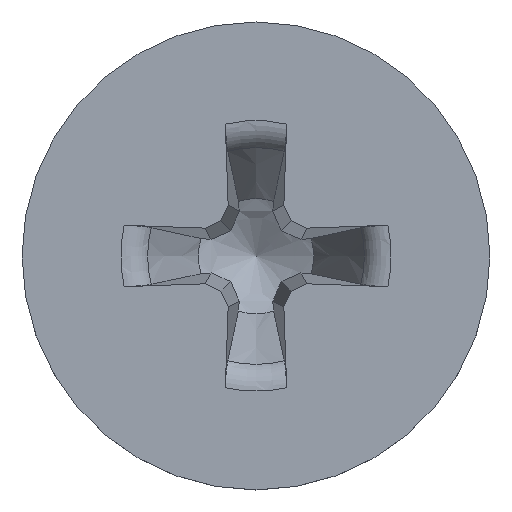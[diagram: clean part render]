
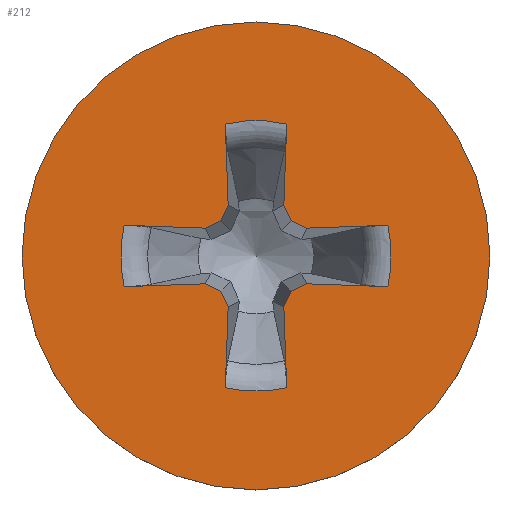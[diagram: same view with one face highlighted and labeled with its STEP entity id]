
A CAD part, top view. The second image highlights one B-rep face of the part: STEP entity #212.
In plain terms, the highlighted planar face has unit normal (0, 0, 1).
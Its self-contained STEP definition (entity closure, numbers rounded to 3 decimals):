
#61=PLANE('',#1049);
#79=LINE('',#2136,#130);
#80=LINE('',#2141,#131);
#81=LINE('',#2143,#132);
#82=LINE('',#2145,#133);
#83=LINE('',#2147,#134);
#84=LINE('',#2151,#135);
#85=LINE('',#2153,#136);
#86=LINE('',#2155,#137);
#87=LINE('',#2157,#138);
#88=LINE('',#2161,#139);
#89=LINE('',#2163,#140);
#90=LINE('',#2165,#141);
#91=LINE('',#2167,#142);
#92=LINE('',#2171,#143);
#93=LINE('',#2173,#144);
#94=LINE('',#2175,#145);
#130=VECTOR('',#1111,1.);
#131=VECTOR('',#1114,1.);
#132=VECTOR('',#1115,1.);
#133=VECTOR('',#1116,1.);
#134=VECTOR('',#1117,1.);
#135=VECTOR('',#1120,1.);
#136=VECTOR('',#1121,1.);
#137=VECTOR('',#1122,1.);
#138=VECTOR('',#1123,1.);
#139=VECTOR('',#1126,1.);
#140=VECTOR('',#1127,1.);
#141=VECTOR('',#1128,1.);
#142=VECTOR('',#1129,1.);
#143=VECTOR('',#1132,1.);
#144=VECTOR('',#1133,1.);
#145=VECTOR('',#1134,1.);
#189=FACE_BOUND('',#331,.T.);
#190=FACE_BOUND('',#332,.T.);
#212=ADVANCED_FACE('',(#189,#190),#61,.F.);
#331=EDGE_LOOP('',(#443));
#332=EDGE_LOOP('',(#444,#445,#446,#447,#448,#449,#450,#451,#452,#453,#454,
#455,#456,#457,#458,#459,#460,#461,#462,#463));
#398=CIRCLE('',#1044,4.65);
#399=CIRCLE('',#1045,2.69);
#400=CIRCLE('',#1046,2.69);
#401=CIRCLE('',#1047,2.69);
#402=CIRCLE('',#1048,2.69);
#443=ORIENTED_EDGE('',*,*,#836,.T.);
#444=ORIENTED_EDGE('',*,*,#837,.F.);
#445=ORIENTED_EDGE('',*,*,#838,.T.);
#446=ORIENTED_EDGE('',*,*,#839,.F.);
#447=ORIENTED_EDGE('',*,*,#840,.F.);
#448=ORIENTED_EDGE('',*,*,#841,.F.);
#449=ORIENTED_EDGE('',*,*,#842,.F.);
#450=ORIENTED_EDGE('',*,*,#843,.T.);
#451=ORIENTED_EDGE('',*,*,#844,.F.);
#452=ORIENTED_EDGE('',*,*,#845,.F.);
#453=ORIENTED_EDGE('',*,*,#846,.F.);
#454=ORIENTED_EDGE('',*,*,#847,.F.);
#455=ORIENTED_EDGE('',*,*,#848,.T.);
#456=ORIENTED_EDGE('',*,*,#849,.F.);
#457=ORIENTED_EDGE('',*,*,#850,.F.);
#458=ORIENTED_EDGE('',*,*,#851,.F.);
#459=ORIENTED_EDGE('',*,*,#852,.F.);
#460=ORIENTED_EDGE('',*,*,#853,.T.);
#461=ORIENTED_EDGE('',*,*,#854,.F.);
#462=ORIENTED_EDGE('',*,*,#855,.F.);
#463=ORIENTED_EDGE('',*,*,#856,.F.);
#737=VERTEX_POINT('',#2135);
#738=VERTEX_POINT('',#2137);
#739=VERTEX_POINT('',#2138);
#740=VERTEX_POINT('',#2140);
#741=VERTEX_POINT('',#2142);
#742=VERTEX_POINT('',#2144);
#743=VERTEX_POINT('',#2146);
#744=VERTEX_POINT('',#2148);
#745=VERTEX_POINT('',#2150);
#746=VERTEX_POINT('',#2152);
#747=VERTEX_POINT('',#2154);
#748=VERTEX_POINT('',#2156);
#749=VERTEX_POINT('',#2158);
#750=VERTEX_POINT('',#2160);
#751=VERTEX_POINT('',#2162);
#752=VERTEX_POINT('',#2164);
#753=VERTEX_POINT('',#2166);
#754=VERTEX_POINT('',#2168);
#755=VERTEX_POINT('',#2170);
#756=VERTEX_POINT('',#2172);
#757=VERTEX_POINT('',#2174);
#836=EDGE_CURVE('',#737,#737,#398,.T.);
#837=EDGE_CURVE('',#738,#739,#79,.T.);
#838=EDGE_CURVE('',#738,#740,#399,.T.);
#839=EDGE_CURVE('',#741,#740,#80,.T.);
#840=EDGE_CURVE('',#742,#741,#81,.T.);
#841=EDGE_CURVE('',#743,#742,#82,.T.);
#842=EDGE_CURVE('',#744,#743,#83,.T.);
#843=EDGE_CURVE('',#744,#745,#400,.T.);
#844=EDGE_CURVE('',#746,#745,#84,.T.);
#845=EDGE_CURVE('',#747,#746,#85,.T.);
#846=EDGE_CURVE('',#748,#747,#86,.T.);
#847=EDGE_CURVE('',#749,#748,#87,.T.);
#848=EDGE_CURVE('',#749,#750,#401,.T.);
#849=EDGE_CURVE('',#751,#750,#88,.T.);
#850=EDGE_CURVE('',#752,#751,#89,.T.);
#851=EDGE_CURVE('',#753,#752,#90,.T.);
#852=EDGE_CURVE('',#754,#753,#91,.T.);
#853=EDGE_CURVE('',#754,#755,#402,.T.);
#854=EDGE_CURVE('',#756,#755,#92,.T.);
#855=EDGE_CURVE('',#757,#756,#93,.T.);
#856=EDGE_CURVE('',#739,#757,#94,.T.);
#1044=AXIS2_PLACEMENT_3D('',#2134,#1109,#1110);
#1045=AXIS2_PLACEMENT_3D('',#2139,#1112,#1113);
#1046=AXIS2_PLACEMENT_3D('',#2149,#1118,#1119);
#1047=AXIS2_PLACEMENT_3D('',#2159,#1124,#1125);
#1048=AXIS2_PLACEMENT_3D('',#2169,#1130,#1131);
#1049=AXIS2_PLACEMENT_3D('',#2176,#1135,#1136);
#1109=DIRECTION('',(0.,0.,1.));
#1110=DIRECTION('',(1.,0.,0.));
#1111=DIRECTION('',(-0.999,-0.035,0.));
#1112=DIRECTION('',(0.,0.,-1.));
#1113=DIRECTION('',(-1.,0.,0.));
#1114=DIRECTION('',(0.999,-0.035,0.));
#1115=DIRECTION('',(0.906,0.423,0.));
#1116=DIRECTION('',(0.423,0.906,0.));
#1117=DIRECTION('',(-0.035,0.999,0.));
#1118=DIRECTION('',(0.,0.,-1.));
#1119=DIRECTION('',(-1.,0.,0.));
#1120=DIRECTION('',(-0.035,-0.999,0.));
#1121=DIRECTION('',(0.423,-0.906,0.));
#1122=DIRECTION('',(0.906,-0.423,0.));
#1123=DIRECTION('',(0.999,0.035,0.));
#1124=DIRECTION('',(0.,0.,-1.));
#1125=DIRECTION('',(-1.,0.,0.));
#1126=DIRECTION('',(-0.999,0.035,0.));
#1127=DIRECTION('',(-0.906,-0.423,0.));
#1128=DIRECTION('',(-0.423,-0.906,0.));
#1129=DIRECTION('',(0.035,-0.999,0.));
#1130=DIRECTION('',(0.,0.,-1.));
#1131=DIRECTION('',(-1.,0.,0.));
#1132=DIRECTION('',(0.035,0.999,0.));
#1133=DIRECTION('',(-0.423,0.906,0.));
#1134=DIRECTION('',(-0.906,0.423,0.));
#1135=DIRECTION('',(0.,0.,-1.));
#1136=DIRECTION('',(-1.,0.,0.));
#2134=CARTESIAN_POINT('',(0.,0.,3.705));
#2135=CARTESIAN_POINT('',(4.65,0.,3.705));
#2136=CARTESIAN_POINT('',(0.144,0.523,3.705));
#2137=CARTESIAN_POINT('',(2.62,0.61,3.705));
#2138=CARTESIAN_POINT('',(1.009,0.553,3.705));
#2139=CARTESIAN_POINT('',(0.,0.,3.705));
#2140=CARTESIAN_POINT('',(2.62,-0.61,3.705));
#2141=CARTESIAN_POINT('',(-0.18,-0.512,3.705));
#2142=CARTESIAN_POINT('',(1.009,-0.553,3.705));
#2143=CARTESIAN_POINT('',(2.173,-0.01,3.705));
#2144=CARTESIAN_POINT('',(0.698,-0.698,3.705));
#2145=CARTESIAN_POINT('',(2.622,3.427,3.705));
#2146=CARTESIAN_POINT('',(0.553,-1.009,3.705));
#2147=CARTESIAN_POINT('',(0.355,4.662,3.705));
#2148=CARTESIAN_POINT('',(0.61,-2.62,3.705));
#2149=CARTESIAN_POINT('',(0.,0.,3.705));
#2150=CARTESIAN_POINT('',(-0.61,-2.62,3.705));
#2151=CARTESIAN_POINT('',(-0.355,4.662,3.705));
#2152=CARTESIAN_POINT('',(-0.553,-1.009,3.705));
#2153=CARTESIAN_POINT('',(-2.622,3.427,3.705));
#2154=CARTESIAN_POINT('',(-0.698,-0.698,3.705));
#2155=CARTESIAN_POINT('',(-2.173,-0.01,3.705));
#2156=CARTESIAN_POINT('',(-1.009,-0.553,3.705));
#2157=CARTESIAN_POINT('',(0.18,-0.512,3.705));
#2158=CARTESIAN_POINT('',(-2.62,-0.61,3.705));
#2159=CARTESIAN_POINT('',(0.,0.,3.705));
#2160=CARTESIAN_POINT('',(-2.62,0.61,3.705));
#2161=CARTESIAN_POINT('',(-0.144,0.523,3.705));
#2162=CARTESIAN_POINT('',(-1.009,0.553,3.705));
#2163=CARTESIAN_POINT('',(1.389,1.671,3.705));
#2164=CARTESIAN_POINT('',(-0.698,0.698,3.705));
#2165=CARTESIAN_POINT('',(0.94,4.212,3.705));
#2166=CARTESIAN_POINT('',(-0.553,1.009,3.705));
#2167=CARTESIAN_POINT('',(-0.68,4.626,3.705));
#2168=CARTESIAN_POINT('',(-0.61,2.62,3.705));
#2169=CARTESIAN_POINT('',(0.,0.,3.705));
#2170=CARTESIAN_POINT('',(0.61,2.62,3.705));
#2171=CARTESIAN_POINT('',(0.68,4.626,3.705));
#2172=CARTESIAN_POINT('',(0.553,1.009,3.705));
#2173=CARTESIAN_POINT('',(-0.94,4.212,3.705));
#2174=CARTESIAN_POINT('',(0.698,0.698,3.705));
#2175=CARTESIAN_POINT('',(-1.389,1.671,3.705));
#2176=CARTESIAN_POINT('',(0.,4.65,3.705));
